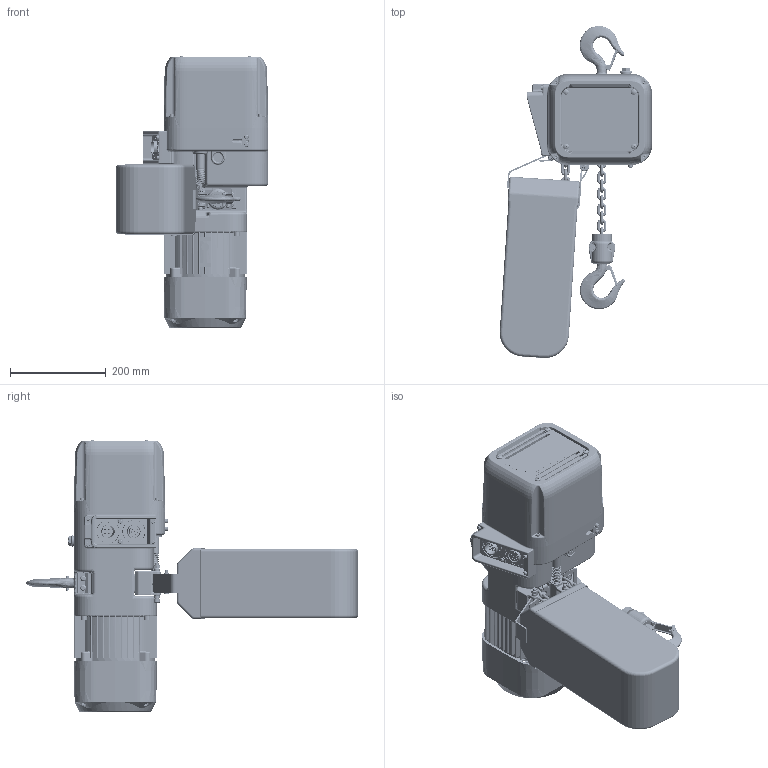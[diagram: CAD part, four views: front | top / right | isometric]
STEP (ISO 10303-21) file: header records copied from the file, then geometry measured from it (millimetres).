
FILE_DESCRIPTION (( 'STEP AP214' ), '1' );
FILE_NAME ('NER2003HD.STEP', '2026-08-03T19:57:01', ( '' ), ( '' ), 'SwSTEP 2.0', 'SolidWorks 2026', '' );
FILE_SCHEMA (( 'AUTOMOTIVE_DESIGN' ));
Length unit declared in the file: millimetre
Products named in the file (60): ER2CS9511; ER2CS2523; ER2BS9011; ER2CS2564; 9679708_9679708; ER2CS9001; E3S112003; ES857005S; ER2BHM05I9A51; ER2CS9103; ER2CS9332; ER2CI9185_ER2CI9185; J1NA001-20060_B18.2.4.1M - Hex nut, Style 1,  M6 x 1 --D-C; 9091283_B18.3.1M - 8 x 1.25 x 75 Hex SHCS -- 65CHX; 9091234_B18.3.1M - 5 x 0.8 x 45 Hex SHCS -- 22CHX; ER1BS9535; M6F554010; J1AP24001212; ES127005S; single coil rectangular section spring washer_bsi_Rectangular section spring washer BS 4464 - 16 (Type B); ER1CS1041; ER2CH2015; NER2003HD; ER2BHM03H9A6; ER2CS9123; ER2CS9338; ER2CS9186; 9091251_9091251; socket head cap screw_am_ER419001; BK2C2; ER2CH1011; LCER2005NP; ER2CS9331; MS561010; ER2DS5403; ER2CS1001; 9091275_B18.3.1M - 8 x 1.25 x 35 Hex SHCS -- 35CHX; ER2CI9104_ER2CI9104; ER2CS9101; ES558003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
Assembly tree (131 placements, depth 4):
  NER2003HD
    ER2CS9101
    ER2CS9103
    ER2CS9105
    ER2CS9107_ER2CS9107
    ER2CS1001
      ER2CS9001
      ER2CS1002
    ER2CS9331
    ER2CS9357
    ER2CS9337
    ER2CS9338
    ER2CS9121  x2
    ER1CS1041
    ER2CS9186
    ER2CS9123
    LCER2005NP
      LCER2005NP  x14
    ER2CS9511
    ER2CS2523
    ER2CS2564
    LCER2005NP (SHAPED)
      LCER2005NP  x6
    ER1BS9135
    ES127005S
    E3S111003  x2
    E3S112003  x2
    socket head cap screw_am_B18.3.1M - 6 x 1.0 x 12 Hex SHCS -- 12CHX
    single coil rectangular section spring washer_bsi_Rectangular section spring washer BS 4464 - 16 (Type B)  x4
    9091251_9091251  x4
    9091275_B18.3.1M - 8 x 1.25 x 35 Hex SHCS -- 35CHX  x4
    9091234_B18.3.1M - 5 x 0.8 x 45 Hex SHCS -- 22CHX  x4
    MS561010  x6
    ES558003  x8
    ER2CH1011
      ER2BS9011
      ER2CS1002
      ER2CH2015
        ER2CH9015  x2
        J1BY9-0602525_B18.2.3.1M - Hex cap screw, M6 x 1.0 x 25 --25C  x2
        J1WS011-20060_Rectangular section spring washer BS 4464 - 16 (Type B)  x2
        J1NA001-20060_B18.2.4.1M - Hex nut, Style 1,  M6 x 1 --D-C  x2
    ER1BS9535
    M6F554010  x2
    ER2CS9332
    ER2CI2104
      ER2CI9104_ER2CI9104
      ER2CI9185_ER2CI9185
      J1AP24001212  x4
        Spring Lock Washer for M4
        pan cross head_am_B18.6.7M - M6 x 1.0 x 16 Type I Cross Recessed PHMS --16N
    ER2BHM05I9A51
    ER2BHM03H9A6
    9679708_9679708  x4
    9091233_9091233  x4
    ER1CS9053  x2
    LCER2005NP  x10
    BK2C2
      ER2DS5403
      9091283_B18.3.1M - 8 x 1.25 x 75 Hex SHCS -- 65CHX
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Bounding box: 319.08 x 694.65 x 568.07 mm (x, y, z)
Volume: 15165643.3 mm3; surface area: 1782468.3 mm2
Topology: 141 solids, 141 shells, 5963 faces, 15428 edges, 9796 vertices
Faces by surface type: plane 2241, cylinder 2238, torus 683, cone 374, bspline 362, sphere 65
Entity records: 172103 total; most frequent: CARTESIAN_POINT 57533, DIRECTION 22945, ORIENTED_EDGE 22930, EDGE_CURVE 11465, AXIS2_PLACEMENT_3D 8727, VERTEX_POINT 7408, VECTOR 5491, LINE 5491
